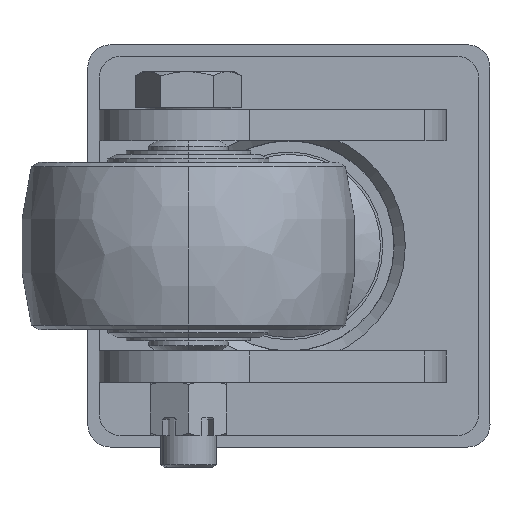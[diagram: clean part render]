
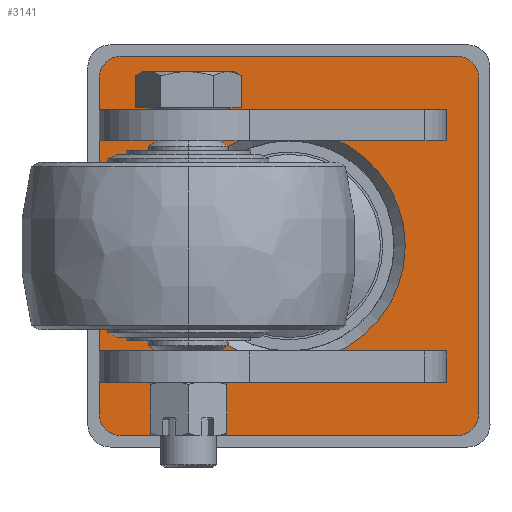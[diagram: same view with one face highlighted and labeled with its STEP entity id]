
A CAD part, front view. The second image highlights one B-rep face of the part: STEP entity #3141.
In plain terms, the highlighted planar face has unit normal (0, -1, 0).
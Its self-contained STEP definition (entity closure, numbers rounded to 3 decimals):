
#36 = CARTESIAN_POINT ( 'NONE',  ( 107.505, -30.854, 85. ) ) ;
#117 = ORIENTED_EDGE ( 'NONE', *, *, #9293, .F. ) ;
#207 = EDGE_CURVE ( 'NONE', #12530, #4033, #14486, .T. ) ;
#857 = CIRCLE ( 'NONE', #7078, 52.1 ) ;
#1176 = DIRECTION ( 'NONE',  ( 0., 0., -1. ) ) ;
#1388 = DIRECTION ( 'NONE',  ( 0., 0., 1. ) ) ;
#1432 = ORIENTED_EDGE ( 'NONE', *, *, #207, .T. ) ;
#1641 = EDGE_CURVE ( 'NONE', #5902, #4330, #8146, .T. ) ;
#2003 = CARTESIAN_POINT ( 'NONE',  ( 107.505, -30.854, -85. ) ) ;
#2147 = CARTESIAN_POINT ( 'NONE',  ( 107.505, -30.854, 75. ) ) ;
#2628 = DIRECTION ( 'NONE',  ( 0., 0., -1. ) ) ;
#2717 = AXIS2_PLACEMENT_3D ( 'NONE', #16597, #16485, #2628 ) ;
#2775 = VERTEX_POINT ( 'NONE', #15999 ) ;
#3141 = ADVANCED_FACE ( 'NONE', ( #14282, #13892 ), #13663, .F. ) ;
#3196 = DIRECTION ( 'NONE',  ( 0., 1., 0. ) ) ;
#3338 = CARTESIAN_POINT ( 'NONE',  ( 32.505, -30.854, -52.1 ) ) ;
#4033 = VERTEX_POINT ( 'NONE', #12256 ) ;
#4315 = CARTESIAN_POINT ( 'NONE',  ( -52.495, -30.854, -85. ) ) ;
#4330 = VERTEX_POINT ( 'NONE', #11582 ) ;
#4565 = DIRECTION ( 'NONE',  ( 0., 0., -1. ) ) ;
#4667 = DIRECTION ( 'NONE',  ( 0., 1., 0. ) ) ;
#4883 = EDGE_CURVE ( 'NONE', #4330, #5902, #857, .T. ) ;
#5103 = VERTEX_POINT ( 'NONE', #5212 ) ;
#5212 = CARTESIAN_POINT ( 'NONE',  ( -42.495, -30.854, 85. ) ) ;
#5415 = DIRECTION ( 'NONE',  ( 0., 1., 0. ) ) ;
#5834 = CARTESIAN_POINT ( 'NONE',  ( -42.495, -30.854, 75. ) ) ;
#5902 = VERTEX_POINT ( 'NONE', #3338 ) ;
#5972 = ORIENTED_EDGE ( 'NONE', *, *, #9297, .F. ) ;
#5999 = ORIENTED_EDGE ( 'NONE', *, *, #9512, .F. ) ;
#6589 = CARTESIAN_POINT ( 'NONE',  ( -52.495, -30.854, 85. ) ) ;
#6711 = ORIENTED_EDGE ( 'NONE', *, *, #4883, .T. ) ;
#7052 = VECTOR ( 'NONE', #8757, 1000. ) ;
#7078 = AXIS2_PLACEMENT_3D ( 'NONE', #10901, #3196, #13453 ) ;
#7401 = CIRCLE ( 'NONE', #7703, 10. ) ;
#7500 = EDGE_CURVE ( 'NONE', #2775, #10332, #15508, .T. ) ;
#7703 = AXIS2_PLACEMENT_3D ( 'NONE', #5834, #4667, #13635 ) ;
#7729 = DIRECTION ( 'NONE',  ( 0., 1., 0. ) ) ;
#8026 = EDGE_LOOP ( 'NONE', ( #15823, #6711 ) ) ;
#8129 = AXIS2_PLACEMENT_3D ( 'NONE', #11412, #5415, #9624 ) ;
#8146 = CIRCLE ( 'NONE', #2717, 52.1 ) ;
#8187 = LINE ( 'NONE', #6589, #12014 ) ;
#8604 = DIRECTION ( 'NONE',  ( 0., 1., 0. ) ) ;
#8641 = ORIENTED_EDGE ( 'NONE', *, *, #11488, .F. ) ;
#8645 = VERTEX_POINT ( 'NONE', #12045 ) ;
#8757 = DIRECTION ( 'NONE',  ( 0., 0., -1. ) ) ;
#8895 = AXIS2_PLACEMENT_3D ( 'NONE', #16111, #10974, #4565 ) ;
#9293 = EDGE_CURVE ( 'NONE', #15265, #5103, #7401, .T. ) ;
#9297 = EDGE_CURVE ( 'NONE', #12530, #10332, #15410, .T. ) ;
#9512 = EDGE_CURVE ( 'NONE', #2775, #8645, #9597, .T. ) ;
#9595 = EDGE_CURVE ( 'NONE', #13349, #5103, #8187, .T. ) ;
#9597 = CIRCLE ( 'NONE', #10526, 10. ) ;
#9624 = DIRECTION ( 'NONE',  ( 0., 0., 1. ) ) ;
#9899 = CIRCLE ( 'NONE', #13994, 10. ) ;
#9947 = VECTOR ( 'NONE', #14628, 1000. ) ;
#10124 = CARTESIAN_POINT ( 'NONE',  ( 117.505, -30.854, -75. ) ) ;
#10286 = ORIENTED_EDGE ( 'NONE', *, *, #11597, .T. ) ;
#10332 = VERTEX_POINT ( 'NONE', #2003 ) ;
#10526 = AXIS2_PLACEMENT_3D ( 'NONE', #11485, #7729, #1176 ) ;
#10901 = CARTESIAN_POINT ( 'NONE',  ( 32.505, -30.854, 0. ) ) ;
#10974 = DIRECTION ( 'NONE',  ( 0., 1., 0. ) ) ;
#11412 = CARTESIAN_POINT ( 'NONE',  ( 32.505, -30.854, 0. ) ) ;
#11485 = CARTESIAN_POINT ( 'NONE',  ( -42.495, -30.854, -75. ) ) ;
#11488 = EDGE_CURVE ( 'NONE', #13349, #4033, #9899, .T. ) ;
#11582 = CARTESIAN_POINT ( 'NONE',  ( 32.505, -30.854, 52.1 ) ) ;
#11597 = EDGE_CURVE ( 'NONE', #15265, #8645, #12105, .T. ) ;
#12014 = VECTOR ( 'NONE', #14625, 1000. ) ;
#12045 = CARTESIAN_POINT ( 'NONE',  ( -52.495, -30.854, -75. ) ) ;
#12105 = LINE ( 'NONE', #12679, #7052 ) ;
#12256 = CARTESIAN_POINT ( 'NONE',  ( 117.505, -30.854, 75. ) ) ;
#12408 = DIRECTION ( 'NONE',  ( 0., 0., -1. ) ) ;
#12530 = VERTEX_POINT ( 'NONE', #10124 ) ;
#12679 = CARTESIAN_POINT ( 'NONE',  ( -52.495, -30.854, -85. ) ) ;
#12957 = CARTESIAN_POINT ( 'NONE',  ( 117.505, -30.854, -85. ) ) ;
#13039 = CARTESIAN_POINT ( 'NONE',  ( -52.495, -30.854, 75. ) ) ;
#13084 = VECTOR ( 'NONE', #1388, 1000. ) ;
#13349 = VERTEX_POINT ( 'NONE', #36 ) ;
#13453 = DIRECTION ( 'NONE',  ( 0., 0., -1. ) ) ;
#13635 = DIRECTION ( 'NONE',  ( 0., 0., -1. ) ) ;
#13663 = PLANE ( 'NONE',  #8129 ) ;
#13892 = FACE_BOUND ( 'NONE', #8026, .T. ) ;
#13917 = ORIENTED_EDGE ( 'NONE', *, *, #9595, .T. ) ;
#13994 = AXIS2_PLACEMENT_3D ( 'NONE', #2147, #8604, #12408 ) ;
#14182 = ORIENTED_EDGE ( 'NONE', *, *, #7500, .T. ) ;
#14282 = FACE_OUTER_BOUND ( 'NONE', #14764, .T. ) ;
#14486 = LINE ( 'NONE', #12957, #13084 ) ;
#14625 = DIRECTION ( 'NONE',  ( -1., 0., 0. ) ) ;
#14628 = DIRECTION ( 'NONE',  ( 1., 0., 0. ) ) ;
#14764 = EDGE_LOOP ( 'NONE', ( #117, #10286, #5999, #14182, #5972, #1432, #8641, #13917 ) ) ;
#15265 = VERTEX_POINT ( 'NONE', #13039 ) ;
#15410 = CIRCLE ( 'NONE', #8895, 10. ) ;
#15508 = LINE ( 'NONE', #4315, #9947 ) ;
#15823 = ORIENTED_EDGE ( 'NONE', *, *, #1641, .T. ) ;
#15999 = CARTESIAN_POINT ( 'NONE',  ( -42.495, -30.854, -85. ) ) ;
#16111 = CARTESIAN_POINT ( 'NONE',  ( 107.505, -30.854, -75. ) ) ;
#16485 = DIRECTION ( 'NONE',  ( 0., 1., 0. ) ) ;
#16597 = CARTESIAN_POINT ( 'NONE',  ( 32.505, -30.854, 0. ) ) ;
